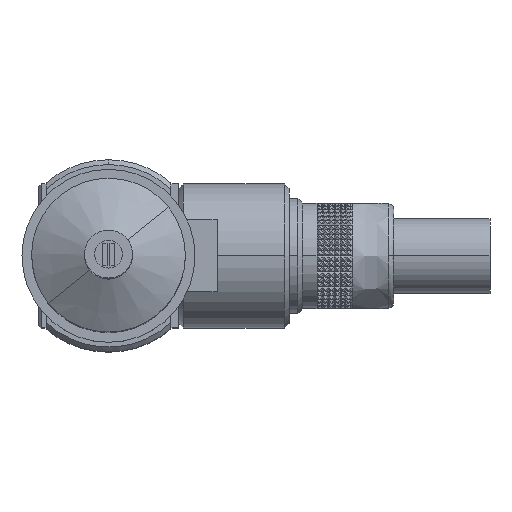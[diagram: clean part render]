
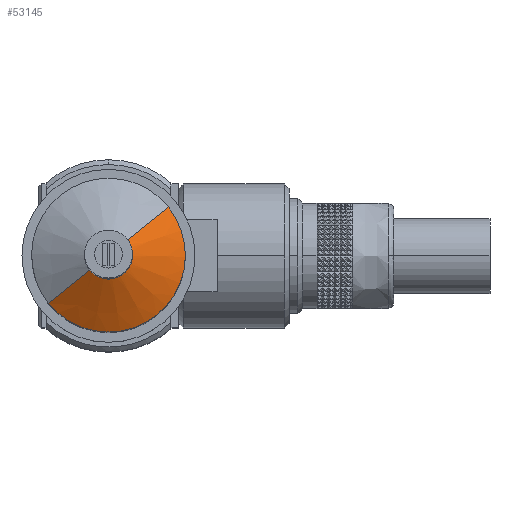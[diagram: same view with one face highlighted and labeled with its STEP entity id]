
A CAD part, top view. The second image highlights one B-rep face of the part: STEP entity #53145.
In plain terms, the highlighted conical face has half-angle 62 degrees and reference radius 2.358 mm.
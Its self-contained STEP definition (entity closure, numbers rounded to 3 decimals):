
#2806 = VERTEX_POINT ( 'NONE', #51871 ) ;
#3188 = VERTEX_POINT ( 'NONE', #51912 ) ;
#3857 = VERTEX_POINT ( 'NONE', #52535 ) ;
#3945 = VERTEX_POINT ( 'NONE', #51233 ) ;
#4933 = AXIS2_PLACEMENT_3D ( 'NONE', #20550, #20553, #20554 ) ;
#4955 = AXIS2_PLACEMENT_3D ( 'NONE', #20513, #20514, #20515 ) ;
#20513 = CARTESIAN_POINT ( 'NONE',  ( 0.038, 0.181, -40. ) ) ;
#20514 = DIRECTION ( 'NONE',  ( 0., 0., 1. ) ) ;
#20515 = DIRECTION ( 'NONE',  ( 0.779, 0.627, 0. ) ) ;
#20542 = CARTESIAN_POINT ( 'NONE',  ( 1.875, 1.66, -40. ) ) ;
#20550 = CARTESIAN_POINT ( 'NONE',  ( 0.038, 0.181, -43. ) ) ;
#20551 = DIRECTION ( 'NONE',  ( 0.688, 0.554, -0.469 ) ) ;
#20553 = DIRECTION ( 'NONE',  ( 0., 0., -1. ) ) ;
#20554 = DIRECTION ( 'NONE',  ( 0.779, 0.627, 0. ) ) ;
#20555 = CARTESIAN_POINT ( 'NONE',  ( -1.798, -1.297, -40. ) ) ;
#20556 = DIRECTION ( 'NONE',  ( -0.688, -0.554, -0.469 ) ) ;
#20984 = DIRECTION ( 'NONE',  ( -0.779, -0.627, 0. ) ) ;
#20985 = DIRECTION ( 'NONE',  ( 0., 0., -1. ) ) ;
#20993 = CARTESIAN_POINT ( 'NONE',  ( 0.038, 0.181, -40. ) ) ;
#23692 = CONICAL_SURFACE ( 'NONE', #31315, 2.358, 1.082 ) ;
#23693 = FACE_OUTER_BOUND ( 'NONE', #54084, .T. ) ;
#31315 = AXIS2_PLACEMENT_3D ( 'NONE', #20993, #20985, #20984 ) ;
#42047 = CIRCLE ( 'NONE', #4933, 8. ) ;
#42049 = LINE ( 'NONE', #20542, #42061 ) ;
#42050 = LINE ( 'NONE', #20555, #42051 ) ;
#42051 = VECTOR ( 'NONE', #20556, 1000. ) ;
#42061 = VECTOR ( 'NONE', #20551, 1000. ) ;
#42062 = CIRCLE ( 'NONE', #4955, 2.358 ) ;
#44523 = EDGE_CURVE ( 'NONE', #3188, #3945, #42062, .T. ) ;
#44534 = EDGE_CURVE ( 'NONE', #3945, #3857, #42049, .T. ) ;
#44535 = EDGE_CURVE ( 'NONE', #3857, #2806, #42047, .T. ) ;
#44536 = EDGE_CURVE ( 'NONE', #3188, #2806, #42050, .T. ) ;
#51233 = CARTESIAN_POINT ( 'NONE',  ( 1.875, 1.66, -40. ) ) ;
#51871 = CARTESIAN_POINT ( 'NONE',  ( -6.194, -4.835, -43. ) ) ;
#51912 = CARTESIAN_POINT ( 'NONE',  ( -1.798, -1.297, -40. ) ) ;
#52535 = CARTESIAN_POINT ( 'NONE',  ( 6.271, 5.197, -43. ) ) ;
#53145 = ADVANCED_FACE ( 'NONE', ( #23693 ), #23692, .T. ) ;
#54084 = EDGE_LOOP ( 'NONE', ( #54734, #54736, #54738, #54739 ) ) ;
#54734 = ORIENTED_EDGE ( 'NONE', *, *, #44534, .F. ) ;
#54736 = ORIENTED_EDGE ( 'NONE', *, *, #44523, .F. ) ;
#54738 = ORIENTED_EDGE ( 'NONE', *, *, #44536, .T. ) ;
#54739 = ORIENTED_EDGE ( 'NONE', *, *, #44535, .F. ) ;
